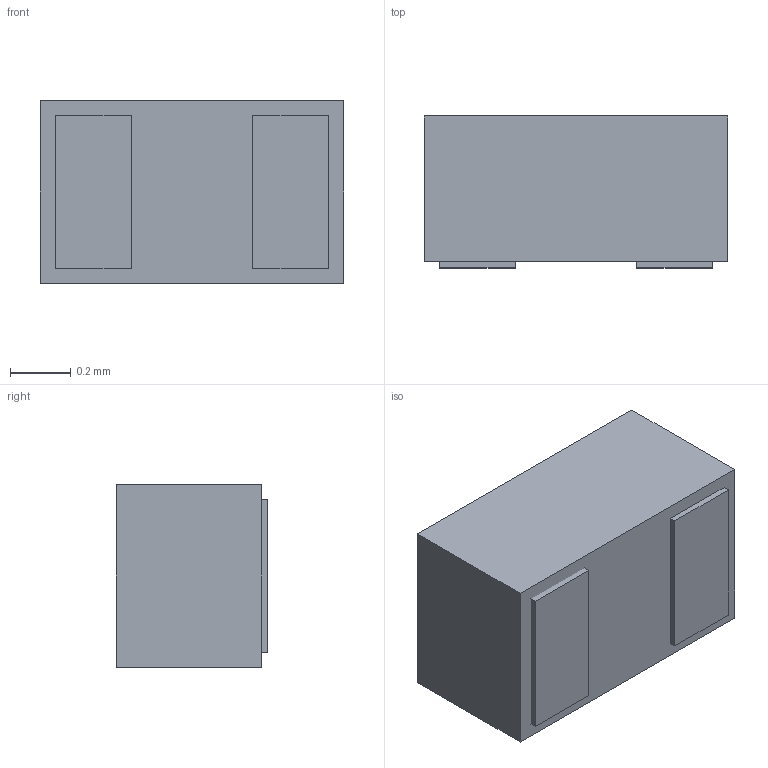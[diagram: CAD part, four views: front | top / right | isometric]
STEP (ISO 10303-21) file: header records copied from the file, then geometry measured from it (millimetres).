
FILE_DESCRIPTION (( 'STEP AP214' ), '1' );
FILE_NAME ( 'DIODFN100X60X50-2.STEP', '2014-04-11T12:31:19', ( '' ), ( '' ), 'FPX Expert 2013', 'PCB Libraries', '' );
FILE_SCHEMA (( 'AUTOMOTIVE_DESIGN' ));
Length unit declared in the file: millimetre
Products named in the file (1): DIODFN100X60X50-2
Bounding box: 1 x 0.5 x 0.6 mm (x, y, z)
Volume: 0.3 mm3; surface area: 3.3 mm2
Topology: 3 solids, 3 shells, 18 faces, 36 edges, 24 vertices
Faces by surface type: plane 18
Entity records: 562 total; most frequent: CARTESIAN_POINT 79, DIRECTION 74, ORIENTED_EDGE 72, VECTOR 36, LINE 36, EDGE_CURVE 36, VERTEX_POINT 24, STYLED_ITEM 22
